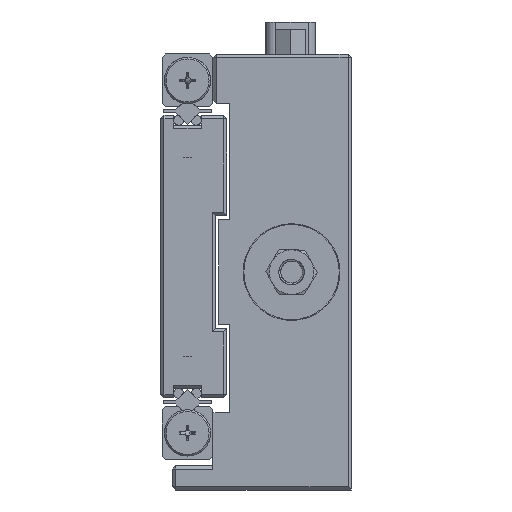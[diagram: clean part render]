
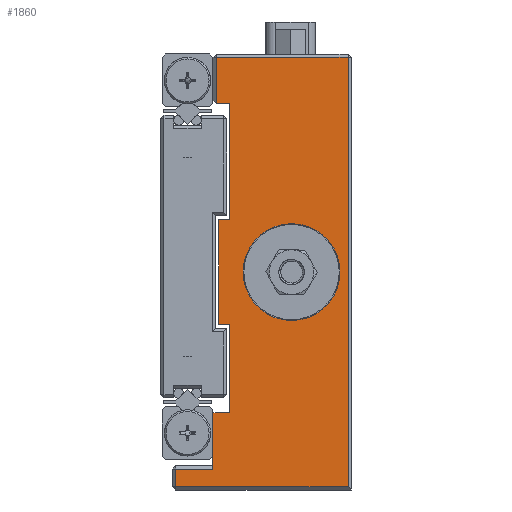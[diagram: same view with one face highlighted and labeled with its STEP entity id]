
A CAD part, left-side view. The second image highlights one B-rep face of the part: STEP entity #1860.
In plain terms, the highlighted planar face has unit normal (-1, 0, 0).
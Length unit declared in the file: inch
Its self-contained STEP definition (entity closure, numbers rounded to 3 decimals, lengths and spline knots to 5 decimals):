
#149 = VERTEX_POINT ( 'NONE', #12142 ) ;
#336 = LINE ( 'NONE', #16722, #17593 ) ;
#598 = VECTOR ( 'NONE', #13217, 39.37008 ) ;
#639 = DIRECTION ( 'NONE',  ( 0., 0., -1. ) ) ;
#731 = VERTEX_POINT ( 'NONE', #10170 ) ;
#1572 = ORIENTED_EDGE ( 'NONE', *, *, #28757, .F. ) ;
#1603 = CARTESIAN_POINT ( 'NONE',  ( -6., 0.3235, -0.478 ) ) ;
#1645 = ORIENTED_EDGE ( 'NONE', *, *, #15053, .T. ) ;
#1716 = CARTESIAN_POINT ( 'NONE',  ( -6., 0.4285, 1.177 ) ) ;
#1725 = EDGE_CURVE ( 'NONE', #28395, #12166, #12943, .T. ) ;
#1742 = VERTEX_POINT ( 'NONE', #24162 ) ;
#1791 = DIRECTION ( 'NONE',  ( 0., -1., 0. ) ) ;
#1860 = ADVANCED_FACE ( 'NONE', ( #15976, #20435 ), #27128, .F. ) ;
#2199 = LINE ( 'NONE', #13145, #29008 ) ;
#3214 = CARTESIAN_POINT ( 'NONE',  ( -6., 0.4085, 0.892 ) ) ;
#3740 = DIRECTION ( 'NONE',  ( 0., 1., 0. ) ) ;
#3875 = VECTOR ( 'NONE', #28634, 39.37008 ) ;
#4022 = ORIENTED_EDGE ( 'NONE', *, *, #28884, .F. ) ;
#5014 = AXIS2_PLACEMENT_3D ( 'NONE', #18521, #25198, #13965 ) ;
#5509 = CARTESIAN_POINT ( 'NONE',  ( -6., 0.3235, 0.892 ) ) ;
#5740 = LINE ( 'NONE', #3214, #12380 ) ;
#5837 = VECTOR ( 'NONE', #17038, 39.37008 ) ;
#6343 = LINE ( 'NONE', #10183, #9998 ) ;
#6359 = ORIENTED_EDGE ( 'NONE', *, *, #7287, .T. ) ;
#7040 = ORIENTED_EDGE ( 'NONE', *, *, #20716, .F. ) ;
#7287 = EDGE_CURVE ( 'NONE', #13966, #149, #6343, .T. ) ;
#7904 = CARTESIAN_POINT ( 'NONE',  ( -6., 0.4285, -1.503 ) ) ;
#7907 = ORIENTED_EDGE ( 'NONE', *, *, #22677, .T. ) ;
#8106 = DIRECTION ( 'NONE',  ( 0., 1., 0. ) ) ;
#8154 = EDGE_CURVE ( 'NONE', #21130, #18109, #19729, .T. ) ;
#8399 = CARTESIAN_POINT ( 'NONE',  ( -6., -0.0585, 0.147 ) ) ;
#8636 = LINE ( 'NONE', #24462, #20903 ) ;
#9165 = CARTESIAN_POINT ( 'NONE',  ( -6., 0.3235, -1.023 ) ) ;
#9483 = LINE ( 'NONE', #24890, #20308 ) ;
#9988 = DIRECTION ( 'NONE',  ( 0., 1., 0. ) ) ;
#9998 = VECTOR ( 'NONE', #8106, 39.37008 ) ;
#10170 = CARTESIAN_POINT ( 'NONE',  ( -6., 0.3935, -0.478 ) ) ;
#10183 = CARTESIAN_POINT ( 'NONE',  ( -6., -11.67657, -1.023 ) ) ;
#10645 = DIRECTION ( 'NONE',  ( 0., 1., 0. ) ) ;
#10689 = VECTOR ( 'NONE', #9988, 39.37008 ) ;
#11680 = VERTEX_POINT ( 'NONE', #27753 ) ;
#11741 = ORIENTED_EDGE ( 'NONE', *, *, #12537, .T. ) ;
#12142 = CARTESIAN_POINT ( 'NONE',  ( -6., 0.4285, -1.023 ) ) ;
#12166 = VERTEX_POINT ( 'NONE', #16584 ) ;
#12260 = VERTEX_POINT ( 'NONE', #23733 ) ;
#12380 = VECTOR ( 'NONE', #23805, 39.37008 ) ;
#12537 = EDGE_CURVE ( 'NONE', #12166, #21671, #9483, .T. ) ;
#12760 = CARTESIAN_POINT ( 'NONE',  ( -6., 0.4085, 0.892 ) ) ;
#12943 = LINE ( 'NONE', #15542, #16379 ) ;
#12954 = CARTESIAN_POINT ( 'NONE',  ( -6., -11.67653, 0.892 ) ) ;
#13078 = ORIENTED_EDGE ( 'NONE', *, *, #17972, .F. ) ;
#13096 = CARTESIAN_POINT ( 'NONE',  ( -6., 0.4285, -1.373 ) ) ;
#13145 = CARTESIAN_POINT ( 'NONE',  ( -6., -0.4085, -1.503 ) ) ;
#13217 = DIRECTION ( 'NONE',  ( 0., 1., 0. ) ) ;
#13375 = DIRECTION ( 'NONE',  ( 0., 0., 1. ) ) ;
#13529 = ORIENTED_EDGE ( 'NONE', *, *, #8154, .T. ) ;
#13786 = VECTOR ( 'NONE', #1791, 39.37008 ) ;
#13966 = VERTEX_POINT ( 'NONE', #9165 ) ;
#13965 = DIRECTION ( 'NONE',  ( 0., 0., 1. ) ) ;
#14065 = AXIS2_PLACEMENT_3D ( 'NONE', #15854, #25186, #639 ) ;
#14104 = CARTESIAN_POINT ( 'NONE',  ( -6., 0.3935, -0.153 ) ) ;
#14872 = LINE ( 'NONE', #23897, #10689 ) ;
#14984 = LINE ( 'NONE', #7904, #5837 ) ;
#15024 = EDGE_CURVE ( 'NONE', #1742, #731, #23938, .T. ) ;
#15053 = EDGE_CURVE ( 'NONE', #18109, #18044, #5740, .T. ) ;
#15318 = ORIENTED_EDGE ( 'NONE', *, *, #22978, .F. ) ;
#15480 = CARTESIAN_POINT ( 'NONE',  ( -6., -0.4085, 1.177 ) ) ;
#15542 = CARTESIAN_POINT ( 'NONE',  ( -6., 0.4285, -1.373 ) ) ;
#15854 = CARTESIAN_POINT ( 'NONE',  ( -6., 0.4285, -1.503 ) ) ;
#15976 = FACE_BOUND ( 'NONE', #27759, .T. ) ;
#16379 = VECTOR ( 'NONE', #3740, 39.37008 ) ;
#16417 = ORIENTED_EDGE ( 'NONE', *, *, #15024, .F. ) ;
#16584 = CARTESIAN_POINT ( 'NONE',  ( -6., 0.6585, -1.373 ) ) ;
#16722 = CARTESIAN_POINT ( 'NONE',  ( -6., 0.3235, -0.153 ) ) ;
#17038 = DIRECTION ( 'NONE',  ( 0., 0., 1. ) ) ;
#17186 = DIRECTION ( 'NONE',  ( 0., 0., 1. ) ) ;
#17258 = CIRCLE ( 'NONE', #5014, 0.3 ) ;
#17593 = VECTOR ( 'NONE', #23269, 39.37008 ) ;
#17867 = CARTESIAN_POINT ( 'NONE',  ( -6., -0.4285, -1.483 ) ) ;
#17972 = EDGE_CURVE ( 'NONE', #731, #11680, #23432, .T. ) ;
#18044 = VERTEX_POINT ( 'NONE', #12760 ) ;
#18109 = VERTEX_POINT ( 'NONE', #19103 ) ;
#18521 = CARTESIAN_POINT ( 'NONE',  ( -6., -0.0585, -0.153 ) ) ;
#19103 = CARTESIAN_POINT ( 'NONE',  ( -6., 0.4085, 1.177 ) ) ;
#19459 = VECTOR ( 'NONE', #17186, 39.37008 ) ;
#19714 = CARTESIAN_POINT ( 'NONE',  ( -6., -0.4085, -1.483 ) ) ;
#19729 = LINE ( 'NONE', #1716, #3875 ) ;
#20308 = VECTOR ( 'NONE', #22818, 39.37008 ) ;
#20435 = FACE_OUTER_BOUND ( 'NONE', #28251, .T. ) ;
#20716 = EDGE_CURVE ( 'NONE', #12260, #25296, #8636, .T. ) ;
#20903 = VECTOR ( 'NONE', #13375, 39.37008 ) ;
#20919 = ORIENTED_EDGE ( 'NONE', *, *, #26588, .F. ) ;
#21130 = VERTEX_POINT ( 'NONE', #15480 ) ;
#21131 = EDGE_CURVE ( 'NONE', #22813, #21130, #2199, .T. ) ;
#21337 = ORIENTED_EDGE ( 'NONE', *, *, #1725, .T. ) ;
#21636 = ORIENTED_EDGE ( 'NONE', *, *, #25373, .T. ) ;
#21671 = VERTEX_POINT ( 'NONE', #26108 ) ;
#22677 = EDGE_CURVE ( 'NONE', #12260, #11680, #14872, .T. ) ;
#22813 = VERTEX_POINT ( 'NONE', #19714 ) ;
#22818 = DIRECTION ( 'NONE',  ( 0., 0., -1. ) ) ;
#22978 = EDGE_CURVE ( 'NONE', #25876, #25876, #17258, .T. ) ;
#23269 = DIRECTION ( 'NONE',  ( 0., 0., 1. ) ) ;
#23432 = LINE ( 'NONE', #14104, #19459 ) ;
#23733 = CARTESIAN_POINT ( 'NONE',  ( -6., 0.3235, 0.172 ) ) ;
#23805 = DIRECTION ( 'NONE',  ( 0., 0., -1. ) ) ;
#23897 = CARTESIAN_POINT ( 'NONE',  ( -6., 0.3235, 0.172 ) ) ;
#23938 = LINE ( 'NONE', #1603, #27001 ) ;
#24162 = CARTESIAN_POINT ( 'NONE',  ( -6., 0.3235, -0.478 ) ) ;
#24462 = CARTESIAN_POINT ( 'NONE',  ( -6., 0.3235, -0.153 ) ) ;
#24466 = LINE ( 'NONE', #12954, #598 ) ;
#24564 = LINE ( 'NONE', #17867, #13786 ) ;
#24890 = CARTESIAN_POINT ( 'NONE',  ( -6., 0.6585, -1.503 ) ) ;
#25186 = DIRECTION ( 'NONE',  ( 1., 0., 0. ) ) ;
#25198 = DIRECTION ( 'NONE',  ( -1., 0., 0. ) ) ;
#25296 = VERTEX_POINT ( 'NONE', #5509 ) ;
#25373 = EDGE_CURVE ( 'NONE', #21671, #22813, #24564, .T. ) ;
#25876 = VERTEX_POINT ( 'NONE', #8399 ) ;
#26108 = CARTESIAN_POINT ( 'NONE',  ( -6., 0.6585, -1.483 ) ) ;
#26588 = EDGE_CURVE ( 'NONE', #25296, #18044, #24466, .T. ) ;
#26710 = ORIENTED_EDGE ( 'NONE', *, *, #21131, .T. ) ;
#26760 = DIRECTION ( 'NONE',  ( 0., 0., 1. ) ) ;
#27001 = VECTOR ( 'NONE', #10645, 39.37008 ) ;
#27128 = PLANE ( 'NONE',  #14065 ) ;
#27753 = CARTESIAN_POINT ( 'NONE',  ( -6., 0.3935, 0.172 ) ) ;
#27759 = EDGE_LOOP ( 'NONE', ( #15318 ) ) ;
#28251 = EDGE_LOOP ( 'NONE', ( #13529, #1645, #20919, #7040, #7907, #13078, #16417, #4022, #6359, #1572, #21337, #11741, #21636, #26710 ) ) ;
#28395 = VERTEX_POINT ( 'NONE', #13096 ) ;
#28634 = DIRECTION ( 'NONE',  ( 0., 1., 0. ) ) ;
#28757 = EDGE_CURVE ( 'NONE', #28395, #149, #14984, .T. ) ;
#28884 = EDGE_CURVE ( 'NONE', #13966, #1742, #336, .T. ) ;
#29008 = VECTOR ( 'NONE', #26760, 39.37008 ) ;
